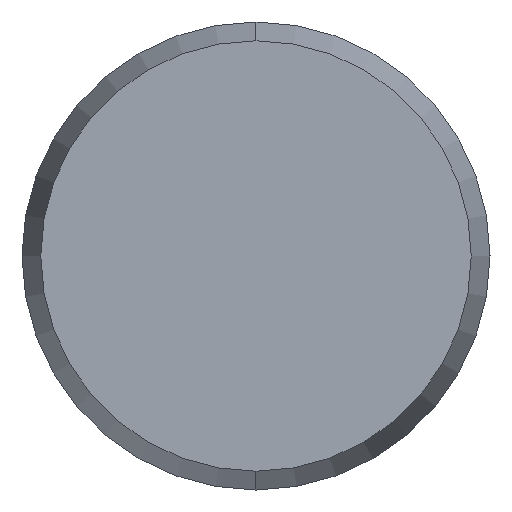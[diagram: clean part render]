
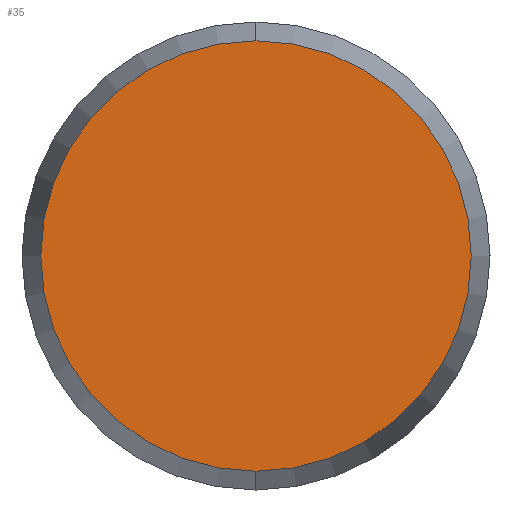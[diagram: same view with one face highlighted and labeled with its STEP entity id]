
A CAD part, left-side view. The second image highlights one B-rep face of the part: STEP entity #35.
In plain terms, the highlighted planar face has unit normal (-1, 0, 0).
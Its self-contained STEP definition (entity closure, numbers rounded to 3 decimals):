
#2 = ORIENTED_EDGE ( 'NONE', *, *, #33, .F. ) ;
#3 = ORIENTED_EDGE ( 'NONE', *, *, #15, .F. ) ;
#15 = EDGE_CURVE ( 'NONE', #16, #17, #248, .T. ) ;
#16 = VERTEX_POINT ( 'NONE', #184 ) ;
#17 = VERTEX_POINT ( 'NONE', #183 ) ;
#33 = EDGE_CURVE ( 'NONE', #17, #16, #108, .T. ) ;
#34 = EDGE_LOOP ( 'NONE', ( #3, #2 ) ) ;
#35 = ADVANCED_FACE ( 'NONE', ( #103 ), #102, .F. ) ;
#98 = DIRECTION ( 'NONE',  ( 0., 0., -1. ) ) ;
#99 = DIRECTION ( 'NONE',  ( 1., 0., 0. ) ) ;
#100 = CARTESIAN_POINT ( 'NONE',  ( -14., 0., 0. ) ) ;
#101 = AXIS2_PLACEMENT_3D ( 'NONE', #100, #99, #98 ) ;
#102 = PLANE ( 'NONE',  #101 ) ;
#103 = FACE_OUTER_BOUND ( 'NONE', #34, .T. ) ;
#104 = DIRECTION ( 'NONE',  ( 0., 0., -1. ) ) ;
#105 = DIRECTION ( 'NONE',  ( 1., 0., 0. ) ) ;
#106 = CARTESIAN_POINT ( 'NONE',  ( -14., 0., 0. ) ) ;
#107 = AXIS2_PLACEMENT_3D ( 'NONE', #106, #105, #104 ) ;
#108 = CIRCLE ( 'NONE', #107, 3.678 ) ;
#183 = CARTESIAN_POINT ( 'NONE',  ( -14., 0., -3.678 ) ) ;
#184 = CARTESIAN_POINT ( 'NONE',  ( -14., 0., 3.678 ) ) ;
#185 = DIRECTION ( 'NONE',  ( 0., 0., -1. ) ) ;
#186 = DIRECTION ( 'NONE',  ( 1., 0., 0. ) ) ;
#246 = CARTESIAN_POINT ( 'NONE',  ( -14., 0., 0. ) ) ;
#247 = AXIS2_PLACEMENT_3D ( 'NONE', #246, #186, #185 ) ;
#248 = CIRCLE ( 'NONE', #247, 3.678 ) ;
